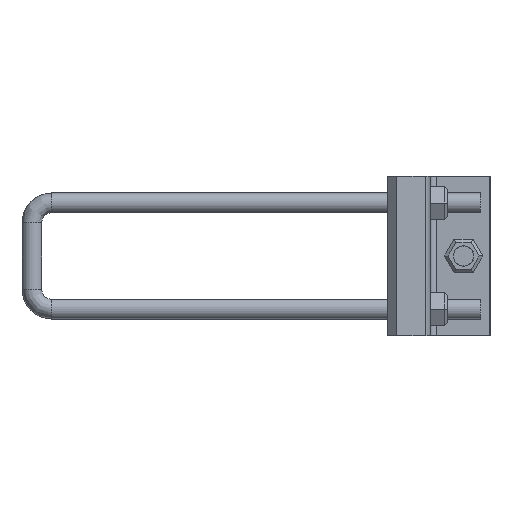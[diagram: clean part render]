
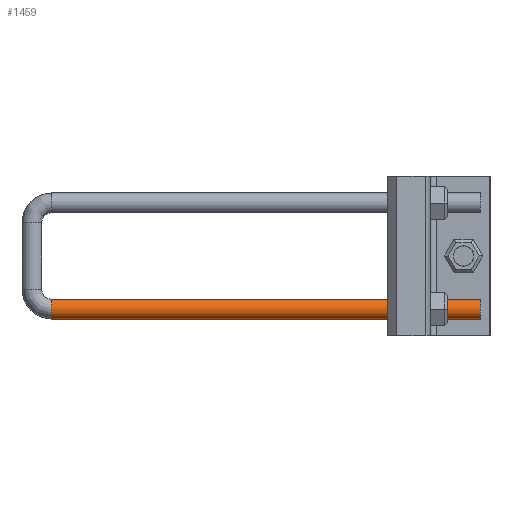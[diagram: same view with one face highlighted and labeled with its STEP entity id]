
A CAD part, left-side view. The second image highlights one B-rep face of the part: STEP entity #1459.
In plain terms, the highlighted cylindrical face has radius 4.763 mm (diameter 9.525 mm), a partial arc.
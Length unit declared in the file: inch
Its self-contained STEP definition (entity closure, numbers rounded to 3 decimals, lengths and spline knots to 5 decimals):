
#1459=ADVANCED_FACE('',(#2937),#2938,.T.);
#1699=EDGE_CURVE('',#2741,#2238,#3231,.T.);
#2238=VERTEX_POINT('',#4058);
#2741=VERTEX_POINT('',#5342);
#2937=FACE_OUTER_BOUND('',#5757,.T.);
#2938=CYLINDRICAL_SURFACE('',#5758,0.1875);
#3231=CIRCLE('',#6340,0.1875);
#4058=CARTESIAN_POINT('',(-12.87306,8.2507,0.3125));
#5342=CARTESIAN_POINT('',(-12.87306,8.2507,0.6875));
#5757=EDGE_LOOP('',(#7640,#7641,#7642,#7643));
#5758=AXIS2_PLACEMENT_3D('',#7644,#7645,#7646);
#6340=AXIS2_PLACEMENT_3D('',#8082,#8083,#8084);
#7640=ORIENTED_EDGE('',*,*,#8220,.F.);
#7641=ORIENTED_EDGE('',*,*,#8175,.T.);
#7642=ORIENTED_EDGE('',*,*,#8221,.F.);
#7643=ORIENTED_EDGE('',*,*,#1699,.T.);
#7644=CARTESIAN_POINT('',(-12.87306,5.06269,0.5));
#7645=DIRECTION('',(-0.0,-1.0,-0.0));
#7646=DIRECTION('',(0.0,0.0,-1.0));
#8082=CARTESIAN_POINT('',(-12.87306,8.2507,0.5));
#8083=DIRECTION('',(0.0,-1.0,0.0));
#8084=DIRECTION('',(0.0,0.0,-1.0));
#8175=EDGE_CURVE('',#8450,#8451,#8452,.T.);
#8220=EDGE_CURVE('',#8450,#2238,#8503,.T.);
#8221=EDGE_CURVE('',#2741,#8451,#8504,.T.);
#8450=VERTEX_POINT('',#8749);
#8451=VERTEX_POINT('',#8750);
#8452=CIRCLE('',#8751,0.1875);
#8503=LINE('',#8813,#8814);
#8504=LINE('',#8815,#8816);
#8749=CARTESIAN_POINT('',(-12.87306,0.18769,0.3125));
#8750=CARTESIAN_POINT('',(-12.87306,0.18769,0.6875));
#8751=AXIS2_PLACEMENT_3D('',#9043,#9044,#9045);
#8813=CARTESIAN_POINT('',(-12.87306,5.06269,0.3125));
#8814=VECTOR('',#9067,1.0);
#8815=CARTESIAN_POINT('',(-12.87306,5.06269,0.6875));
#8816=VECTOR('',#9068,1.0);
#9043=CARTESIAN_POINT('',(-12.87306,0.18769,0.5));
#9044=DIRECTION('',(0.0,1.0,0.0));
#9045=DIRECTION('',(0.0,0.0,-1.0));
#9067=DIRECTION('',(0.0,1.0,0.0));
#9068=DIRECTION('',(-0.0,-1.0,-0.0));
